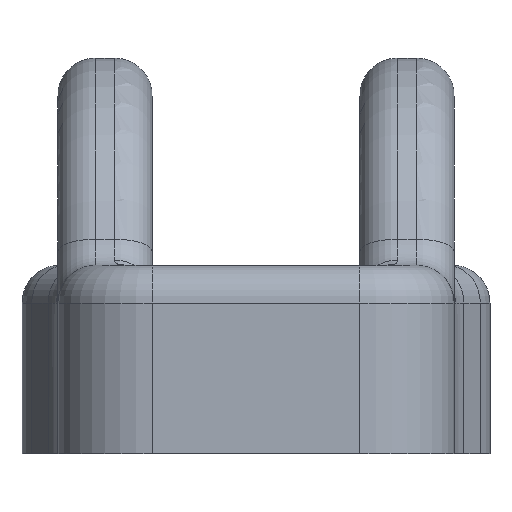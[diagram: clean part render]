
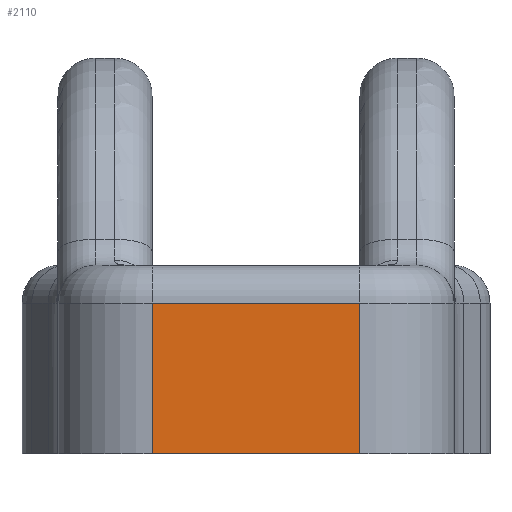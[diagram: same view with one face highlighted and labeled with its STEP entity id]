
A CAD part, front view. The second image highlights one B-rep face of the part: STEP entity #2110.
In plain terms, the highlighted planar face has unit normal (0, -1, 0).
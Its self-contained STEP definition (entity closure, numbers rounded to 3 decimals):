
#25 = VECTOR ( 'NONE', #2733, 1000. ) ;
#166 = VECTOR ( 'NONE', #1689, 1000. ) ;
#170 = VECTOR ( 'NONE', #1687, 1000. ) ;
#172 = LINE ( 'NONE', #1688, #166 ) ;
#174 = VECTOR ( 'NONE', #1675, 1000. ) ;
#180 = LINE ( 'NONE', #1668, #174 ) ;
#182 = LINE ( 'NONE', #1682, #170 ) ;
#300 = ORIENTED_EDGE ( 'NONE', *, *, #3871, .F. ) ;
#302 = ORIENTED_EDGE ( 'NONE', *, *, #4028, .T. ) ;
#438 = ORIENTED_EDGE ( 'NONE', *, *, #4029, .T. ) ;
#442 = ORIENTED_EDGE ( 'NONE', *, *, #4027, .T. ) ;
#475 = VERTEX_POINT ( 'NONE', #2499 ) ;
#558 = VERTEX_POINT ( 'NONE', #3814 ) ;
#609 = VERTEX_POINT ( 'NONE', #3548 ) ;
#933 = VERTEX_POINT ( 'NONE', #3437 ) ;
#1009 = EDGE_LOOP ( 'NONE', ( #438, #302, #442, #300 ) ) ;
#1544 = LINE ( 'NONE', #2732, #25 ) ;
#1668 = CARTESIAN_POINT ( 'NONE',  ( -5.5, 0., 0. ) ) ;
#1675 = DIRECTION ( 'NONE',  ( 0., 0., -1. ) ) ;
#1682 = CARTESIAN_POINT ( 'NONE',  ( 12.4, 0., 8. ) ) ;
#1687 = DIRECTION ( 'NONE',  ( -1., 0., 0. ) ) ;
#1688 = CARTESIAN_POINT ( 'NONE',  ( 5.5, 0., 10. ) ) ;
#1689 = DIRECTION ( 'NONE',  ( 0., 0., 1. ) ) ;
#2110 = ADVANCED_FACE ( 'NONE', ( #4213 ), #3482, .F. ) ;
#2499 = CARTESIAN_POINT ( 'NONE',  ( 5.5, 0., 0. ) ) ;
#2732 = CARTESIAN_POINT ( 'NONE',  ( 12.4, 0., 0. ) ) ;
#2733 = DIRECTION ( 'NONE',  ( -1., 0., 0. ) ) ;
#3437 = CARTESIAN_POINT ( 'NONE',  ( 5.5, 0., 8. ) ) ;
#3480 = CARTESIAN_POINT ( 'NONE',  ( 12.4, 0., 0. ) ) ;
#3482 = PLANE ( 'NONE',  #3704 ) ;
#3485 = DIRECTION ( 'NONE',  ( 0., 1., 0. ) ) ;
#3486 = DIRECTION ( 'NONE',  ( 0., 0., 1. ) ) ;
#3548 = CARTESIAN_POINT ( 'NONE',  ( -5.5, 0., 0. ) ) ;
#3704 = AXIS2_PLACEMENT_3D ( 'NONE', #3480, #3485, #3486 ) ;
#3814 = CARTESIAN_POINT ( 'NONE',  ( -5.5, 0., 8. ) ) ;
#3871 = EDGE_CURVE ( 'NONE', #475, #609, #1544, .T. ) ;
#4027 = EDGE_CURVE ( 'NONE', #558, #609, #180, .T. ) ;
#4028 = EDGE_CURVE ( 'NONE', #933, #558, #182, .T. ) ;
#4029 = EDGE_CURVE ( 'NONE', #475, #933, #172, .T. ) ;
#4213 = FACE_OUTER_BOUND ( 'NONE', #1009, .T. ) ;
